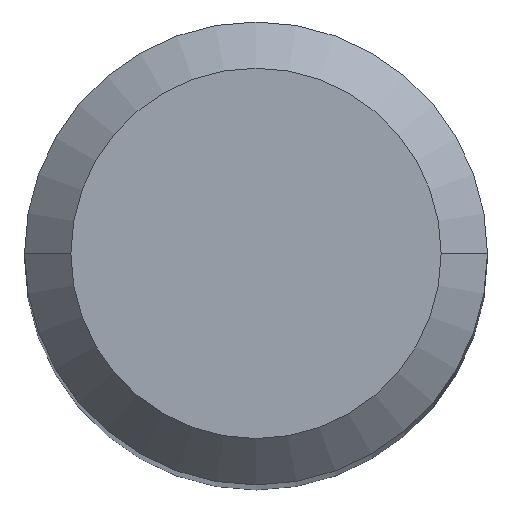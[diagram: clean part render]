
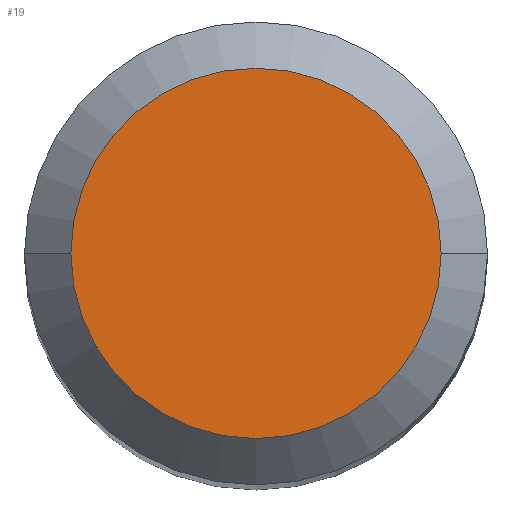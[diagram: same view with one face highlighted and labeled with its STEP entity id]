
A CAD part, top view. The second image highlights one B-rep face of the part: STEP entity #19.
In plain terms, the highlighted planar face has unit normal (0, 0, 1).
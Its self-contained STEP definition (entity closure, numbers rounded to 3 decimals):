
#19 = ADVANCED_FACE ( 'NONE', ( #344 ), #301, .T. ) ;
#41 = VERTEX_POINT ( 'NONE', #269 ) ;
#42 = DIRECTION ( 'NONE',  ( -1., 0., 0. ) ) ;
#55 = AXIS2_PLACEMENT_3D ( 'NONE', #457, #452, #490 ) ;
#89 = CIRCLE ( 'NONE', #99, 2.4 ) ;
#99 = AXIS2_PLACEMENT_3D ( 'NONE', #190, #156, #236 ) ;
#101 = ORIENTED_EDGE ( 'NONE', *, *, #400, .F. ) ;
#124 = EDGE_CURVE ( 'NONE', #448, #41, #89, .T. ) ;
#156 = DIRECTION ( 'NONE',  ( 0., 0., -1. ) ) ;
#190 = CARTESIAN_POINT ( 'NONE',  ( 0., 0., 0. ) ) ;
#236 = DIRECTION ( 'NONE',  ( -1., 0., 0. ) ) ;
#246 = CARTESIAN_POINT ( 'NONE',  ( 0., 0., 0. ) ) ;
#269 = CARTESIAN_POINT ( 'NONE',  ( -2.4, 0., 0. ) ) ;
#278 = EDGE_LOOP ( 'NONE', ( #101, #438 ) ) ;
#300 = CARTESIAN_POINT ( 'NONE',  ( 2.4, 0., 0. ) ) ;
#301 = PLANE ( 'NONE',  #55 ) ;
#344 = FACE_OUTER_BOUND ( 'NONE', #278, .T. ) ;
#400 = EDGE_CURVE ( 'NONE', #41, #448, #453, .T. ) ;
#438 = ORIENTED_EDGE ( 'NONE', *, *, #124, .F. ) ;
#440 = DIRECTION ( 'NONE',  ( 0., 0., -1. ) ) ;
#448 = VERTEX_POINT ( 'NONE', #300 ) ;
#452 = DIRECTION ( 'NONE',  ( 0., 0., 1. ) ) ;
#453 = CIRCLE ( 'NONE', #475, 2.4 ) ;
#457 = CARTESIAN_POINT ( 'NONE',  ( 0., 2.4, 0. ) ) ;
#475 = AXIS2_PLACEMENT_3D ( 'NONE', #246, #440, #42 ) ;
#490 = DIRECTION ( 'NONE',  ( 1., 0., 0. ) ) ;
